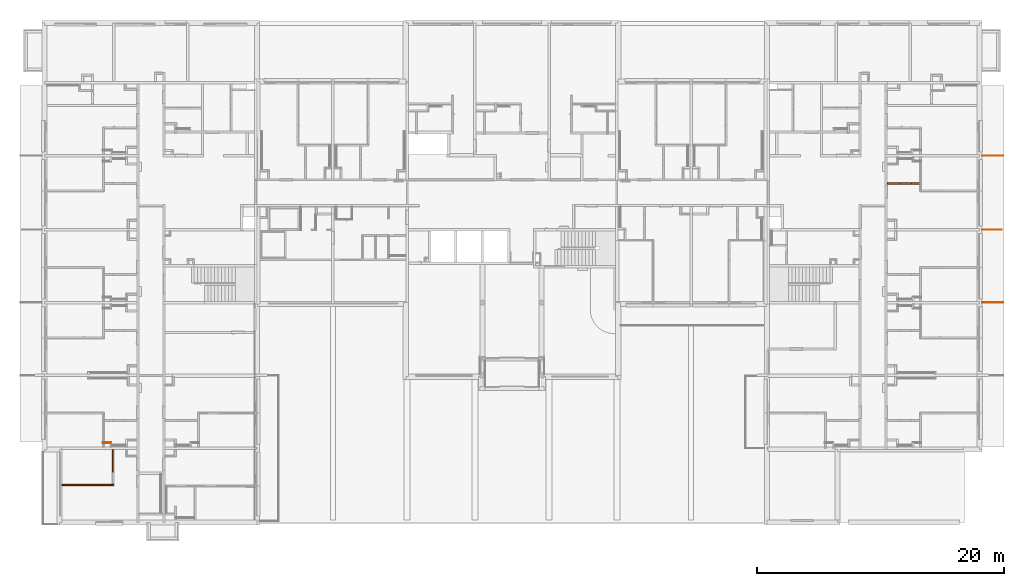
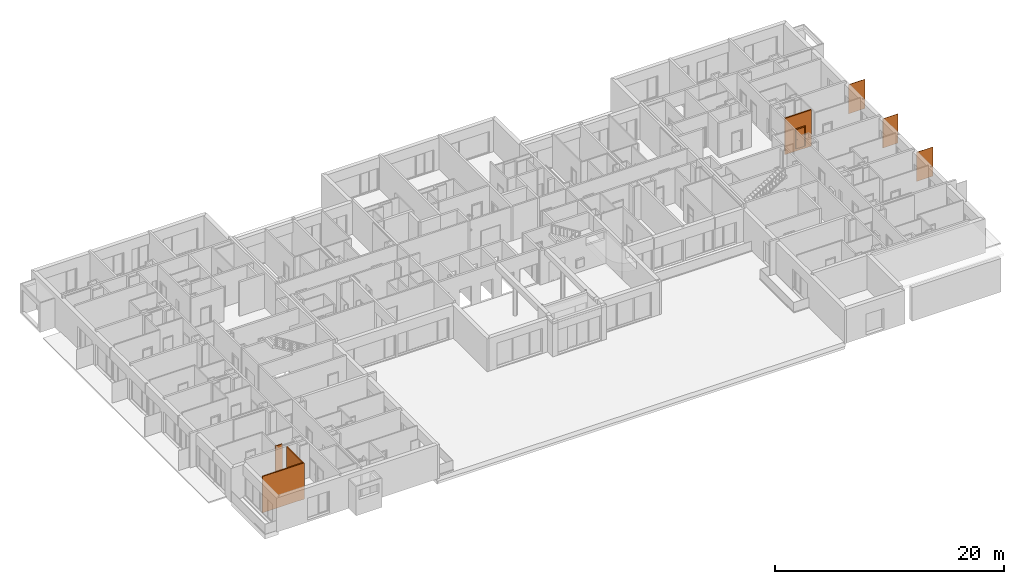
# One storey, part 18 of 46: 8 proxies, 2 openings.
"""IFC2X3 building model written with IfcOpenShell, lengths in millimetres."""

import ifcopenshell
import ifcopenshell.guid

model = None  # the IFC model being written
_history = None  # IfcOwnerHistory: only IFC2X3 demands one
_inside = {}  # id of a spatial element -> (the spatial element, [elements in it])
_under = {}  # id of a project, library or spatial element -> (it, [spatial elements below it])
_declared = {}  # id of a project -> (the project, [libraries it declares])
_typed = {}  # id of a type object -> (the type object, [elements of that type])
_made_of = {}  # id of a material, layer set ... -> (it, [elements and type objects made of it])


def new_model(schema):
    """Start an empty IFC model of exactly this schema.

    Asked for "IFC4X3", IfcOpenShell would pick the latest addendum, in which some entities
    have other attributes; the version numbers below select the first issue.
    IFC2X3 requires an IfcOwnerHistory on every rooted entity: one is made here for all.
    """
    global model, _history
    if schema == "IFC4X3":
        model = ifcopenshell.file(schema_version=(4, 3, 0, 0))
    else:
        model = ifcopenshell.file(schema=schema)
    _inside.clear()
    _under.clear()
    _declared.clear()
    _typed.clear()
    _made_of.clear()
    _history = None
    if model.schema == "IFC2X3":
        org = make("IfcOrganization", Name="unknown")
        user = make(
            "IfcPersonAndOrganization",
            ThePerson=make("IfcPerson", FamilyName="unknown"),
            TheOrganization=org,
        )
        app = make(
            "IfcApplication",
            ApplicationDeveloper=org,
            Version="unknown",
            ApplicationFullName="unknown",
            ApplicationIdentifier="unknown",
        )
        _history = make(
            "IfcOwnerHistory",
            OwningUser=user,
            OwningApplication=app,
            ChangeAction="ADDED",
            CreationDate=0,
        )
    return model


def make(cls, **values):
    """One entity of the class cls with the attributes given. An attribute that is None is left unset."""
    return model.create_entity(
        cls, **{name: value for name, value in values.items() if value is not None}
    )


def entity(cls, *values):
    """Any entity or typed value of the class cls, its attributes in the order of the schema. None: left unset."""
    e = model.create_entity(cls)
    for i, value in enumerate(values):
        if value is not None:
            e[i] = value
    return e


def rooted(cls, **values):
    """An entity with a GlobalId (a new one), such as an element, a storey or a relation."""
    return make(cls, GlobalId=ifcopenshell.guid.new(), OwnerHistory=_history, **values)


def si_unit(unit_type, name, prefix=None):
    """IfcSIUnit, for example si_unit("LENGTHUNIT", "METRE", prefix="MILLI")."""
    return make("IfcSIUnit", UnitType=unit_type, Prefix=prefix, Name=name)


def converted_unit(unit_type, name, factor, base, dimensions=None, offset=None):
    """IfcConversionBasedUnit, such as the inch: factor (a typed value) times the base unit."""
    return make(
        "IfcConversionBasedUnit"
        if offset is None
        else "IfcConversionBasedUnitWithOffset",
        ConversionOffset=offset,
        Dimensions=None
        if dimensions is None
        else entity("IfcDimensionalExponents", *dimensions),
        UnitType=unit_type,
        Name=name,
        ConversionFactor=make(
            "IfcMeasureWithUnit", ValueComponent=factor, UnitComponent=base
        ),
    )


def derived_unit(unit_type, elements):
    """IfcDerivedUnit: a product of units, each with its exponent."""
    return make(
        "IfcDerivedUnit",
        Elements=[
            make("IfcDerivedUnitElement", Unit=unit, Exponent=power)
            for unit, power in elements
        ],
        UnitType=unit_type,
    )


def money_unit(currency):
    """IfcMonetaryUnit."""
    return make("IfcMonetaryUnit", Currency=currency)


def assignment(units):
    """IfcUnitAssignment: the units of a project."""
    return None if units is None else make("IfcUnitAssignment", Units=units)


def point(xyz):
    """IfcCartesianPoint."""
    return None if xyz is None else make("IfcCartesianPoint", Coordinates=xyz)


def direction(xyz):
    """IfcDirection."""
    return None if xyz is None else make("IfcDirection", DirectionRatios=xyz)


def frame(location, z_axis=None, x_axis=None):
    """IfcAxis2Placement3D, a coordinate frame: its origin and axes. An axis left out is left unset."""
    return make(
        "IfcAxis2Placement3D",
        Location=point(location),
        Axis=direction(z_axis),
        RefDirection=direction(x_axis),
    )


def frame_2d(location, x_axis=None):
    """IfcAxis2Placement2D, a coordinate frame in the plane: its origin and x axis."""
    return make(
        "IfcAxis2Placement2D", Location=point(location), RefDirection=direction(x_axis)
    )


def origin_with_axes():
    """The frame at (0, 0, 0) with the z axis (0, 0, 1) and the x axis (1, 0, 0) written out."""
    return frame((0.0, 0.0, 0.0), z_axis=(0.0, 0.0, 1.0), x_axis=(1.0, 0.0, 0.0))


def origin_2d_with_axis():
    """The frame at (0, 0) in the plane with the x axis (1, 0) written out."""
    return frame_2d((0.0, 0.0), x_axis=(1.0, 0.0))


def place(relative_to, where):
    """IfcLocalPlacement: puts the frame where relative to a parent placement (None: the world)."""
    return make(
        "IfcLocalPlacement", PlacementRelTo=relative_to, RelativePlacement=where
    )


def context(
    kind, dimensions, precision=None, world=None, true_north=None, identifier=None
):
    """IfcGeometricRepresentationContext, for example the 3D "Model" context."""
    return make(
        "IfcGeometricRepresentationContext",
        ContextIdentifier=identifier,
        ContextType=kind,
        CoordinateSpaceDimension=dimensions,
        Precision=precision,
        WorldCoordinateSystem=world,
        TrueNorth=true_north,
    )


def subcontext(parent, identifier, kind, view, scale=None):
    """IfcGeometricRepresentationSubContext, for example "Body" below "Model"."""
    return make(
        "IfcGeometricRepresentationSubContext",
        ContextIdentifier=identifier,
        ContextType=kind,
        ParentContext=parent,
        TargetScale=scale,
        TargetView=view,
    )


def project(units=None, contexts=None):
    """IfcProject with its units and contexts."""
    return rooted(
        "IfcProject",
        Name="project",
        RepresentationContexts=contexts,
        UnitsInContext=assignment(units),
    )


def spatial(cls, under=None, at=None, **own):
    """A site, building, storey or space (cls), placed at a placement, below another one or the project."""
    s = rooted(cls, ObjectPlacement=at, **own)
    if under is not None:
        _under.setdefault(under.id(), (under, []))[1].append(s)
    return s


def polyline(points):
    """IfcPolyline through the points."""
    return make("IfcPolyline", Points=[point(p) for p in points])


def profile(cls, at=None, kind="AREA", **sizes):
    """A parametric profile (cls). Its sizes go by their IFC names, for example OverallWidth=200.0."""
    return make(cls, ProfileType=kind, Position=at, **sizes)


def rectangle(**sizes):
    """IfcRectangleProfileDef."""
    return profile("IfcRectangleProfileDef", **sizes)


def outline(outer, holes=None, kind="AREA"):
    """IfcArbitraryClosedProfileDef: a profile drawn as a closed curve; with holes, ...WithVoids."""
    if holes is None:
        return make("IfcArbitraryClosedProfileDef", ProfileType=kind, OuterCurve=outer)
    return make(
        "IfcArbitraryProfileDefWithVoids",
        ProfileType=kind,
        OuterCurve=outer,
        InnerCurves=holes,
    )


def extrude(swept, where, along, depth):
    """IfcExtrudedAreaSolid: the profile swept, set in the frame where, extruded along a direction by depth."""
    return make(
        "IfcExtrudedAreaSolid",
        SweptArea=swept,
        Position=where,
        ExtrudedDirection=direction(along),
        Depth=depth,
    )


def faces_of(points, faces, orient=None, outer=None):
    """IfcFace entities. A face is a list of loops; a loop is a list of indices into points, from 0.

    orient and outer hold one flag for each loop. By default every Orientation is true, the
    first loop of a face is its IfcFaceOuterBound and the others are IfcFaceBound.
    """
    made = []
    for i, loops in enumerate(faces):
        bounds = []
        for j, loop in enumerate(loops):
            is_outer = j == 0 if outer is None else outer[i][j]
            bounds.append(
                make(
                    "IfcFaceOuterBound" if is_outer else "IfcFaceBound",
                    Bound=make("IfcPolyLoop", Polygon=[points[k] for k in loop]),
                    Orientation=True if orient is None else orient[i][j],
                )
            )
        made.append(make("IfcFace", Bounds=bounds))
    return made


def open_shell(faces, orient=None, outer=None):
    """The faces of one IfcOpenShell. surface_model builds it on its shared points."""
    return ("IfcOpenShell", faces, orient, outer)


def faceted_brep(points, faces, orient=None, outer=None, voids=None):
    """IfcFacetedBrep: a solid bounded by flat faces; with voids (closed shells), ...WithVoids."""
    shared = [point(p) for p in points]
    hull = make("IfcClosedShell", CfsFaces=faces_of(shared, faces, orient, outer))
    if voids is None:
        return make("IfcFacetedBrep", Outer=hull)
    return make(
        "IfcFacetedBrepWithVoids",
        Outer=hull,
        Voids=[
            make(cls, CfsFaces=faces_of(shared, fs, o, b)) for cls, fs, o, b in voids
        ],
    )


def surface_model(cls, points, shells):
    """IfcFaceBasedSurfaceModel or IfcShellBasedSurfaceModel (cls): surfaces that need not close."""
    shared = [point(p) for p in points]
    made = [make(c, CfsFaces=faces_of(shared, fs, o, b)) for c, fs, o, b in shells]
    if cls == "IfcFaceBasedSurfaceModel":
        return make(cls, FbsmFaces=made)
    return make(cls, SbsmBoundary=made)


def shape(context_of_items, identifier, shape_type, items):
    """IfcShapeRepresentation: the items that make up one representation, for example the "Body"."""
    return make(
        "IfcShapeRepresentation",
        ContextOfItems=context_of_items,
        RepresentationIdentifier=identifier,
        RepresentationType=shape_type,
        Items=items,
    )


def source(mapping_origin, context_of_items, identifier, shape_type, items):
    """IfcRepresentationMap: a shape defined once, which mapped items show again and again."""
    return make(
        "IfcRepresentationMap",
        MappingOrigin=mapping_origin,
        MappedRepresentation=shape(context_of_items, identifier, shape_type, items),
    )


def transform(
    local_origin,
    x_axis=None,
    y_axis=None,
    z_axis=None,
    scale=None,
    scale2=None,
    scale3=None,
    uniform=True,
):
    """IfcCartesianTransformationOperator3D, or its non-uniform kind. x_axis, y_axis, z_axis: its Axis1, 2, 3."""
    if uniform:
        return make(
            "IfcCartesianTransformationOperator3D",
            Axis1=direction(x_axis),
            Axis2=direction(y_axis),
            LocalOrigin=point(local_origin),
            Scale=scale,
            Axis3=direction(z_axis),
        )
    return make(
        "IfcCartesianTransformationOperator3DnonUniform",
        Axis1=direction(x_axis),
        Axis2=direction(y_axis),
        LocalOrigin=point(local_origin),
        Scale=scale,
        Axis3=direction(z_axis),
        Scale2=scale2,
        Scale3=scale3,
    )


def mapped(mapping_source, mapping_target):
    """IfcMappedItem: shows the shape of a source again, moved by a transform."""
    return make(
        "IfcMappedItem", MappingSource=mapping_source, MappingTarget=mapping_target
    )


def material(Name=None, Category=None):
    """IfcMaterial."""
    return make("IfcMaterial", Name=Name, Category=Category)


def made_of(thing, what):
    """Note that an element or type object is made of a material, layer set ...; save() writes the relation."""
    if what is not None:
        _made_of.setdefault(what.id(), (what, []))[1].append(thing)
    return thing


def type_object(cls, material=None, **own):
    """A type object (cls), such as IfcWallType, which elements share."""
    return made_of(rooted(cls, **own), material)


def element(
    cls,
    number,
    at=None,
    inside=None,
    cuts=None,
    type_object=None,
    material=None,
    context=None,
    identifier="Body",
    shape_type=None,
    held_by="IfcProductDefinitionShape",
    body=None,
    shapes=None,
    **own,
):
    """One element of the class cls, such as IfcWall. Its Tag is "e" and its number.

    at: its placement. inside: the storey or other place that contains it. cuts: it is an
    opening in that element (IfcRelVoidsElement). A single representation is given by context,
    identifier, shape_type and body (its items); several are given by shapes. held_by: the class
    of the entity that holds the representations. save() writes the other relations.
    """
    e = rooted(cls, Tag="e%d" % number, ObjectPlacement=at, **own)
    if body is not None:
        shapes = [shape(context, identifier, shape_type, body)]
    if shapes is not None:
        e.Representation = make(held_by, Representations=shapes)
    if inside is not None:
        _inside.setdefault(inside.id(), (inside, []))[1].append(e)
    if cuts is not None:
        rooted(
            "IfcRelVoidsElement", RelatingBuildingElement=cuts, RelatedOpeningElement=e
        )
    if type_object is not None:
        _typed.setdefault(type_object.id(), (type_object, []))[1].append(e)
    return made_of(e, material)


def fill(opening, filler):
    """IfcRelFillsElement: the door or window that sits in an opening."""
    return rooted(
        "IfcRelFillsElement",
        RelatingOpeningElement=opening,
        RelatedBuildingElement=filler,
    )


def aggregate(whole, parts):
    """IfcRelAggregates: a whole, such as a stair, and the parts it consists of."""
    return rooted("IfcRelAggregates", RelatingObject=whole, RelatedObjects=parts)


def save(model, path):
    """Write the relations noted so far, then the file.

    IfcRelAggregates (storeys below a building ...), IfcRelContainedInSpatialStructure (elements
    in a storey), IfcRelDefinesByType, IfcRelAssociatesMaterial and IfcRelDeclares: one each for
    every whole, place, type object, material and project.
    """
    for whole, parts in _under.values():
        aggregate(whole, parts)
    for where, things in _inside.values():
        rooted(
            "IfcRelContainedInSpatialStructure",
            RelatedElements=things,
            RelatingStructure=where,
        )
    for kind, things in _typed.values():
        rooted("IfcRelDefinesByType", RelatedObjects=things, RelatingType=kind)
    for what, things in _made_of.values():
        rooted("IfcRelAssociatesMaterial", RelatedObjects=things, RelatingMaterial=what)
    for by, libraries in _declared.values():
        rooted("IfcRelDeclares", RelatingContext=by, RelatedDefinitions=libraries)
    model.write(path)


model = new_model("IFC2X3")

# Units and contexts
model_context = context("Model", 3, precision=0.01, world=origin_with_axes(), true_north=direction((0.34421633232, 0.938890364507)))
body_context = subcontext(model_context, "Body", "Model", "MODEL_VIEW")
ifc_project = project(units=[si_unit("LENGTHUNIT", "METRE", prefix="MILLI"), si_unit("AREAUNIT", "SQUARE_METRE"), si_unit("VOLUMEUNIT", "CUBIC_METRE"), converted_unit("PLANEANGLEUNIT", "DEGREE", entity("IfcPlaneAngleMeasure", 0.0174532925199), si_unit("PLANEANGLEUNIT", "RADIAN"), dimensions=[0, 0, 0, 0, 0, 0, 0]), si_unit("SOLIDANGLEUNIT", "STERADIAN"), money_unit("USD"), converted_unit("TIMEUNIT", "Year", entity("IfcTimeMeasure", 31556926.0), si_unit("TIMEUNIT", "SECOND"), dimensions=[0, 0, 1, 0, 0, 0, 0]), si_unit("MASSUNIT", "GRAM", prefix="KILO"), si_unit("THERMODYNAMICTEMPERATUREUNIT", "DEGREE_CELSIUS"), si_unit("LUMINOUSINTENSITYUNIT", "LUMEN"), si_unit("ENERGYUNIT", "JOULE", prefix="MEGA"), derived_unit("THERMALCONDUCTANCEUNIT", [(si_unit("POWERUNIT", "WATT"), 1), (si_unit("LENGTHUNIT", "METRE"), -1), (si_unit("THERMODYNAMICTEMPERATUREUNIT", "KELVIN"), -1)]), derived_unit("SPECIFICHEATCAPACITYUNIT", [(si_unit("ENERGYUNIT", "JOULE"), 1), (si_unit("MASSUNIT", "GRAM", prefix="KILO"), -1), (si_unit("THERMODYNAMICTEMPERATUREUNIT", "KELVIN"), -1)]), derived_unit("MASSDENSITYUNIT", [(si_unit("MASSUNIT", "GRAM", prefix="KILO"), 1), (si_unit("VOLUMEUNIT", "CUBIC_METRE"), -1)])], contexts=[model_context])

# Site, building, storey
site_placement = place(None, origin_with_axes())
site = spatial("IfcSite", under=ifc_project, at=site_placement, Name="USTRONIE MORSKIE", CompositionType="ELEMENT")
building_placement = place(site_placement, origin_with_axes())
building = spatial("IfcBuilding", under=site, at=building_placement, Name="Budynek", CompositionType="ELEMENT")
storey_placement = place(building_placement, origin_with_axes())
storey = spatial("IfcBuildingStorey", under=building, at=storey_placement, Name="PARTER", CompositionType="ELEMENT", Elevation=0.0)

# Proxies, opening
ifc_material_1 = material(Name="Bloczki silikatowe")
building_element_proxy_type_1 = type_object("IfcBuildingElementProxyType", Name="Bloczki silikatowe 120", PredefinedType="NOTDEFINED")
proxy_1_placement = place(storey_placement, frame((420917.920919, 736541.179047, -230.0), z_axis=(0.0, 0.0, 1.0), x_axis=(-1.0, 0.0, 0.0)))
proxy_1 = element("IfcBuildingElementProxy", 1, at=proxy_1_placement, inside=storey, type_object=building_element_proxy_type_1, material=ifc_material_1, Name="SW-04", context=body_context, shape_type="Brep", body=[
    faceted_brep([(2720.0, 59.9999999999, 0.0), (2720.0, -59.9999999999, 0.0), (60.0, -59.9999999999, 0.0), (60.0, 59.9999999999, 0.0), (2720.0, 59.9999999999, 3870.0), (2720.0, -59.9999999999, 3870.0), (60.0, -59.9999999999, 3870.0), (60.0, 59.9999999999, 3870.0)], [[[0, 1, 2, 3]], [[1, 0, 4, 5]], [[1, 5, 6, 2]], [[7, 3, 2, 6]], [[4, 0, 3, 7]], [[5, 4, 7, 6]]]),
])
opening_1_placement = place(proxy_1_placement, frame((1200.0, 0.0, 230.0), z_axis=(0.0, 0.0, 1.0), x_axis=(1.0, 0.0, 0.0)))
opening_1 = element("IfcOpeningElement", 2, at=opening_1_placement, cuts=proxy_1, Name="Dw.4", context=body_context, shape_type="SweptSolid", body=[
    extrude(rectangle(XDim=920.0, YDim=2070.0, at=origin_2d_with_axis()), frame((0.0, -120.0, 1035.0), z_axis=(0.0, -1.0, 0.0), x_axis=(-1.0, 0.0, 0.0)), (0.0, 0.0, -1.0), 360.0),
    extrude(rectangle(XDim=994.0, YDim=2177.0, at=origin_2d_with_axis()), frame((0.0, -59.9999999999, 1088.5), z_axis=(0.0, -1.0, 0.0), x_axis=(-1.0, 0.0, 0.0)), (0.0, 0.0, 1.0), 120.0),
    extrude(rectangle(XDim=994.0, YDim=2177.0, at=origin_2d_with_axis()), frame((0.0, 60.0000000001, 1088.5), z_axis=(0.0, 1.0, 0.0), x_axis=(-1.0, 0.0, 0.0)), (0.0, 0.0, 1.0), 120.0),
])
building_element_proxy_type_2 = type_object("IfcBuildingElementProxyType", Name="Drzwi 23", PredefinedType="NOTDEFINED")
shared_shape = source(origin_with_axes(), body_context, "Body", "SurfaceModel", [
    faceted_brep([(460.0, -115.0, 0.0), (460.0, -120.0, 0.0), (435.0, -120.0, 0.0), (435.0, -115.0, 0.0), (460.0, -115.0, 2070.0), (460.0, -120.0, 2070.0), (435.0, -120.0, 2045.0), (435.0, -115.0, 2045.0)], [[[0, 1, 2, 3]], [[4, 5, 1, 0]], [[1, 5, 6, 2]], [[3, 2, 6, 7]], [[0, 3, 7, 4]], [[7, 6, 5, 4]]]),
    faceted_brep([(-460.0, -115.0, 2070.0), (-460.0, -120.0, 2070.0), (-435.0, -120.0, 2045.0), (-435.0, -115.0, 2045.0), (-460.0, -115.0, 0.0), (-460.0, -120.0, 0.0), (-435.0, -120.0, 0.0), (-435.0, -115.0, 0.0)], [[[0, 1, 2, 3]], [[4, 5, 1, 0]], [[1, 5, 6, 2]], [[3, 2, 6, 7]], [[0, 3, 7, 4]], [[7, 6, 5, 4]]]),
    faceted_brep([(435.0, -115.0, 2045.0), (435.0, -120.0, 2045.0), (-435.0, -120.0, 2045.0), (-435.0, -115.0, 2045.0), (460.0, -115.0, 2070.0), (460.0, -120.0, 2070.0), (-460.0, -120.0, 2070.0), (-460.0, -115.0, 2070.0)], [[[0, 1, 2, 3]], [[4, 5, 1, 0]], [[1, 5, 6, 2]], [[3, 2, 6, 7]], [[0, 3, 7, 4]], [[7, 6, 5, 4]]]),
    faceted_brep([(497.0, -139.0, 0.0), (447.0, -139.0, 0.0), (447.0, -120.0, 0.0), (497.0, -120.0, 0.0), (497.0, -139.0, 2177.0), (447.0, -139.0, 2057.0), (447.0, -120.0, 2057.0), (497.0, -120.0, 2177.0)], [[[0, 1, 2, 3]], [[0, 4, 5, 1]], [[1, 5, 6, 2]], [[3, 2, 6, 7]], [[4, 0, 3, 7]], [[5, 4, 7, 6]]]),
    faceted_brep([(-497.0, -139.0, 2177.0), (-447.0, -139.0, 2057.0), (-447.0, -120.0, 2057.0), (-497.0, -120.0, 2177.0), (-497.0, -139.0, 0.0), (-447.0, -139.0, 0.0), (-447.0, -120.0, 0.0), (-497.0, -120.0, 0.0)], [[[0, 1, 2, 3]], [[0, 4, 5, 1]], [[1, 5, 6, 2]], [[3, 2, 6, 7]], [[4, 0, 3, 7]], [[5, 4, 7, 6]]]),
    faceted_brep([(497.0, -139.0, 2177.0), (447.0, -139.0, 2057.0), (447.0, -120.0, 2057.0), (497.0, -120.0, 2177.0), (-497.0, -139.0, 2177.0), (-447.0, -139.0, 2057.0), (-447.0, -120.0, 2057.0), (-497.0, -120.0, 2177.0)], [[[0, 1, 2, 3]], [[0, 4, 5, 1]], [[1, 5, 6, 2]], [[3, 2, 6, 7]], [[4, 0, 3, 7]], [[5, 4, 7, 6]]]),
    faceted_brep([(497.0, 19.0, 0.0), (497.0, 0.0, 0.0), (447.0, 0.0, 0.0), (447.0, 19.0, 0.0), (497.0, 19.0, 2177.0), (497.0, 0.0, 2177.0), (447.0, 0.0, 2057.0), (447.0, 19.0, 2057.0)], [[[0, 1, 2, 3]], [[4, 5, 1, 0]], [[1, 5, 6, 2]], [[3, 2, 6, 7]], [[0, 3, 7, 4]], [[7, 6, 5, 4]]]),
    faceted_brep([(-497.0, 19.0, 2177.0), (-497.0, 0.0, 2177.0), (-447.0, 0.0, 2057.0), (-447.0, 19.0, 2057.0), (-497.0, 19.0, 0.0), (-497.0, 0.0, 0.0), (-447.0, 0.0, 0.0), (-447.0, 19.0, 0.0)], [[[0, 1, 2, 3]], [[4, 5, 1, 0]], [[1, 5, 6, 2]], [[3, 2, 6, 7]], [[0, 3, 7, 4]], [[7, 6, 5, 4]]]),
    faceted_brep([(497.0, 19.0, 2177.0), (497.0, 0.0, 2177.0), (447.0, 0.0, 2057.0), (447.0, 19.0, 2057.0), (-497.0, 19.0, 2177.0), (-497.0, 0.0, 2177.0), (-447.0, 0.0, 2057.0), (-447.0, 19.0, 2057.0)], [[[0, 1, 2, 3]], [[4, 5, 1, 0]], [[1, 5, 6, 2]], [[3, 2, 6, 7]], [[0, 3, 7, 4]], [[7, 6, 5, 4]]]),
    faceted_brep([(400.0, -40.0, 0.0), (400.0, -115.0, 0.0), (400.0, -115.0, 2000.0), (400.0, -40.0, 2000.0), (412.0, -40.0, 0.0), (412.0, 0.0, 0.0), (460.0, 0.0, 0.0), (460.0, -115.0, 0.0), (460.0, -115.0, 2000.0), (412.0, -40.0, 2000.0), (460.0, 0.0, 2000.0), (412.0, 0.0, 2000.0)], [[[0, 1, 2, 3]], [[4, 5, 6, 7, 1, 0]], [[1, 7, 8, 2]], [[9, 3, 2, 8, 10, 11]], [[9, 4, 0, 3]], [[11, 5, 4, 9]], [[11, 10, 6, 5]], [[6, 10, 8, 7]]]),
    faceted_brep([(-412.0, -40.0, 2000.0), (-412.0, 0.0, 2000.0), (-460.0, 0.0, 2000.0), (-460.0, -115.0, 2000.0), (-400.0, -115.0, 2000.0), (-400.0, -40.0, 2000.0), (-412.0, -40.0, 0.0), (-412.0, 0.0, 0.0), (-460.0, 0.0, 0.0), (-460.0, -115.0, 0.0), (-400.0, -115.0, 0.0), (-400.0, -40.0, 0.0)], [[[0, 1, 2, 3, 4, 5]], [[0, 6, 7, 1]], [[7, 8, 2, 1]], [[2, 8, 9, 3]], [[3, 9, 10, 4]], [[5, 4, 10, 11]], [[5, 11, 6, 0]], [[6, 11, 10, 9, 8, 7]]]),
    faceted_brep([(412.0, 0.0, 2012.0), (-412.0, 0.0, 2012.0), (-412.0, 0.0, 2000.0), (-460.0, 0.0, 2000.0), (-460.0, 0.0, 2070.0), (460.0, 0.0, 2070.0), (460.0, 0.0, 2000.0), (412.0, 0.0, 2000.0), (412.0, -40.0, 2012.0), (-412.0, -40.0, 2012.0), (-412.0, -40.0, 2000.0), (-400.0, -40.0, 2000.0), (-400.0, -115.0, 2000.0), (-460.0, -115.0, 2000.0), (-460.0, -115.0, 2070.0), (460.0, -115.0, 2070.0), (460.0, -115.0, 2000.0), (412.0, -40.0, 2000.0), (400.0, -115.0, 2000.0), (400.0, -40.0, 2000.0)], [[[0, 1, 2, 3, 4, 5, 6, 7]], [[0, 8, 9, 1]], [[1, 9, 10, 2]], [[10, 11, 12, 13, 3, 2]], [[4, 3, 13, 14]], [[5, 4, 14, 15]], [[6, 5, 15, 16]], [[17, 7, 6, 16, 18, 19]], [[7, 17, 8, 0]], [[10, 9, 8, 17, 19, 11]], [[19, 18, 12, 11]], [[12, 18, 16, 15, 14, 13]]]),
    faceted_brep([(390.5, -40.0, 1060.0), (333.5, -40.0, 1060.0), (333.5, -43.0, 1060.0), (390.5, -43.0, 1060.0), (390.5, -40.0, 870.0), (333.5, -40.0, 870.0), (333.5, -43.0, 870.0), (390.5, -43.0, 870.0)], [[[0, 1, 2, 3]], [[0, 4, 5, 1]], [[1, 5, 6, 2]], [[3, 2, 6, 7]], [[4, 0, 3, 7]], [[5, 4, 7, 6]]]),
    faceted_brep([(362.0, -104.0, 990.0), (367.0, -104.0, 991.339745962), (367.0, -111.0, 991.339745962), (362.0, -111.0, 990.0), (337.0, -104.0, 990.0), (337.0, -104.0, 1010.0), (362.0, -104.0, 1010.0), (367.0, -104.0, 1008.66025404), (370.660254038, -104.0, 1005.0), (372.0, -104.0, 1000.0), (370.660254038, -104.0, 995.0), (370.660254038, -111.0, 995.0), (372.0, -111.0, 1000.0), (370.660254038, -111.0, 1005.0), (367.0, -111.0, 1008.66025404), (362.0, -111.0, 1010.0), (337.0, -111.0, 1010.0), (337.0, -111.0, 990.0)], [[[0, 1, 2, 3]], [[0, 4, 5, 6, 7, 8, 9, 10, 1]], [[1, 10, 11, 2]], [[3, 2, 11, 12, 13, 14, 15, 16, 17]], [[4, 0, 3, 17]], [[5, 4, 17, 16]], [[6, 5, 16, 15]], [[7, 6, 15, 14]], [[8, 7, 14, 13]], [[9, 8, 13, 12]], [[10, 9, 12, 11]]]),
    surface_model("IfcShellBasedSurfaceModel", [(337.0, -104.0, 1010.0), (323.901717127, -104.0, 1009.60730092), (323.596090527, -111.0, 1009.60730092), (337.0, -104.0, 990.0), (323.901717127, -104.0, 990.392699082), (296.890283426, -108.663544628, 1008.82190275), (337.0, -111.0, 1010.0), (337.0, -111.0, 990.0), (297.804837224, -101.716818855, 991.178097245), (297.804837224, -101.716818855, 1008.82190275), (296.890283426, -108.663544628, 991.178097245), (323.596090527, -111.0, 990.392699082), (272.006256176, -97.1678329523, 991.963495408), (272.006256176, -97.1678329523, 1008.03650459), (270.489735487, -104.008415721, 1008.03650459), (270.489735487, -104.008415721, 991.963495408), (246.702316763, -90.3876628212, 992.748893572), (246.702316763, -90.3876628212, 1007.25110643), (244.59537082, -97.0700416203, 1007.25110643), (244.59537082, -97.0700416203, 992.748893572), (238.829442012, -87.5221707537, 993.0), (238.829442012, -87.5221707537, 1007.0), (236.538795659, -94.1376880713, 1007.0), (236.538795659, -94.1376880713, 993.0)], [open_shell([[[0, 1, 2]], [[0, 3, 4, 1]], [[1, 5, 2]], [[0, 2, 6]], [[4, 3, 7]], [[1, 4, 8, 9]], [[1, 9, 5]], [[2, 5, 10, 11]], [[6, 2, 11, 7]], [[4, 7, 11]], [[8, 4, 11]], [[9, 8, 12, 13]], [[9, 14, 5]], [[5, 14, 15, 10]], [[8, 11, 10]], [[12, 8, 10]], [[13, 12, 16, 17]], [[9, 13, 14]], [[14, 18, 19, 15]], [[12, 10, 15]], [[16, 12, 15]], [[17, 16, 20, 21]], [[13, 17, 18]], [[13, 18, 14]], [[18, 22, 23, 19]], [[16, 15, 19]], [[20, 16, 19]], [[21, 20, 23, 22]], [[17, 21, 22]], [[17, 22, 18]], [[20, 19, 23]]])]),
    faceted_brep([(351.607695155, -53.0, 994.0), (350.0, -53.0, 1000.0), (349.0, -43.0, 1000.0), (350.741669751, -43.0, 993.5), (356.0, -53.0, 989.607695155), (362.0, -53.0, 988.0), (368.0, -53.0, 989.607695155), (372.392304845, -53.0, 994.0), (374.0, -53.0, 1000.0), (372.392304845, -53.0, 1006.0), (368.0, -53.0, 1010.39230485), (362.0, -53.0, 1012.0), (356.0, -53.0, 1010.39230485), (351.607695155, -53.0, 1006.0), (350.741669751, -43.0, 1006.5), (355.5, -43.0, 1011.25833025), (362.0, -43.0, 1013.0), (368.5, -43.0, 1011.25833025), (373.258330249, -43.0, 1006.5), (375.0, -43.0, 1000.0), (373.258330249, -43.0, 993.5), (368.5, -43.0, 988.741669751), (362.0, -43.0, 987.0), (355.5, -43.0, 988.741669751)], [[[0, 1, 2, 3]], [[1, 0, 4, 5, 6, 7, 8, 9, 10, 11, 12, 13]], [[1, 13, 14, 2]], [[2, 14, 15, 16, 17, 18, 19, 20, 21, 22, 23, 3]], [[4, 0, 3, 23]], [[5, 4, 23, 22]], [[6, 5, 22, 21]], [[7, 6, 21, 20]], [[8, 7, 20, 19]], [[9, 8, 19, 18]], [[10, 9, 18, 17]], [[11, 10, 17, 16]], [[12, 11, 16, 15]], [[13, 12, 15, 14]]]),
    faceted_brep([(344.679491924, -47.0, 895.0), (342.0, -47.0, 905.0), (340.0, -43.0, 905.0), (342.947441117, -43.0, 894.0), (352.0, -47.0, 887.679491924), (362.0, -47.0, 885.0), (372.0, -47.0, 887.679491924), (379.320508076, -47.0, 895.0), (382.0, -47.0, 905.0), (379.320508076, -47.0, 915.0), (372.0, -47.0, 922.320508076), (362.0, -47.0, 925.0), (352.0, -47.0, 922.320508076), (344.679491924, -47.0, 915.0), (342.947441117, -43.0, 916.0), (351.0, -43.0, 924.052558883), (362.0, -43.0, 927.0), (373.0, -43.0, 924.052558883), (381.052558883, -43.0, 916.0), (384.0, -43.0, 905.0), (381.052558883, -43.0, 894.0), (373.0, -43.0, 885.947441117), (362.0, -43.0, 883.0), (351.0, -43.0, 885.947441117)], [[[0, 1, 2, 3]], [[1, 0, 4, 5, 6, 7, 8, 9, 10, 11, 12, 13]], [[1, 13, 14, 2]], [[2, 14, 15, 16, 17, 18, 19, 20, 21, 22, 23, 3]], [[4, 0, 3, 23]], [[5, 4, 23, 22]], [[6, 5, 22, 21]], [[7, 6, 21, 20]], [[8, 7, 20, 19]], [[9, 8, 19, 18]], [[10, 9, 18, 17]], [[11, 10, 17, 16]], [[12, 11, 16, 15]], [[13, 12, 15, 14]]]),
    faceted_brep([(357.050252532, -49.0, 909.050252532), (355.0, -49.0, 914.0), (354.0, -47.0, 914.0), (356.343145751, -47.0, 908.343145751), (362.0, -49.0, 907.0), (366.949747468, -49.0, 909.050252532), (369.0, -49.0, 914.0), (366.949747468, -49.0, 918.949747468), (362.0, -49.0, 921.0), (357.050252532, -49.0, 918.949747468), (356.343145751, -47.0, 919.656854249), (362.0, -47.0, 922.0), (367.656854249, -47.0, 919.656854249), (370.0, -47.0, 914.0), (367.656854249, -47.0, 908.343145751), (362.0, -47.0, 906.0)], [[[0, 1, 2, 3]], [[1, 0, 4, 5, 6, 7, 8, 9]], [[1, 9, 10, 2]], [[2, 10, 11, 12, 13, 14, 15, 3]], [[4, 0, 3, 15]], [[5, 4, 15, 14]], [[6, 5, 14, 13]], [[7, 6, 13, 12]], [[8, 7, 12, 11]], [[9, 8, 11, 10]]]),
    faceted_brep([(362.0, -53.0, 1010.0), (357.0, -53.0, 1008.66025404), (357.0, -104.0, 1008.66025404), (362.0, -104.0, 1010.0), (367.0, -53.0, 1008.66025404), (370.660254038, -53.0, 1005.0), (372.0, -53.0, 1000.0), (370.660254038, -53.0, 995.0), (367.0, -53.0, 991.339745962), (362.0, -53.0, 990.0), (357.0, -53.0, 991.339745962), (353.339745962, -53.0, 995.0), (352.0, -53.0, 1000.0), (353.339745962, -53.0, 1005.0), (353.339745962, -104.0, 1005.0), (352.0, -104.0, 1000.0), (353.339745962, -104.0, 995.0), (357.0, -104.0, 991.339745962), (362.0, -104.0, 990.0), (367.0, -104.0, 991.339745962), (370.660254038, -104.0, 995.0), (372.0, -104.0, 1000.0), (370.660254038, -104.0, 1005.0), (367.0, -104.0, 1008.66025404)], [[[0, 1, 2, 3]], [[0, 4, 5, 6, 7, 8, 9, 10, 11, 12, 13, 1]], [[1, 13, 14, 2]], [[3, 2, 14, 15, 16, 17, 18, 19, 20, 21, 22, 23]], [[4, 0, 3, 23]], [[5, 4, 23, 22]], [[6, 5, 22, 21]], [[7, 6, 21, 20]], [[8, 7, 20, 19]], [[9, 8, 19, 18]], [[10, 9, 18, 17]], [[11, 10, 17, 16]], [[12, 11, 16, 15]], [[13, 12, 15, 14]]]),
    faceted_brep([(390.5, 0.0, 1060.0), (390.5, 3.0, 1060.0), (333.5, 3.0, 1060.0), (333.5, 0.0, 1060.0), (390.5, 0.0, 870.0), (390.5, 3.0, 870.0), (333.5, 3.0, 870.0), (333.5, 0.0, 870.0)], [[[0, 1, 2, 3]], [[4, 5, 1, 0]], [[1, 5, 6, 2]], [[3, 2, 6, 7]], [[0, 3, 7, 4]], [[7, 6, 5, 4]]]),
    faceted_brep([(362.0, 64.0, 990.0), (362.0, 71.0, 990.0), (367.0, 71.0, 991.339745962), (367.0, 64.0, 991.339745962), (337.0, 64.0, 990.0), (337.0, 71.0, 990.0), (337.0, 71.0, 1010.0), (362.0, 71.0, 1010.0), (367.0, 71.0, 1008.66025404), (370.660254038, 71.0, 1005.0), (372.0, 71.0, 1000.0), (370.660254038, 71.0, 995.0), (370.660254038, 64.0, 995.0), (372.0, 64.0, 1000.0), (370.660254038, 64.0, 1005.0), (367.0, 64.0, 1008.66025404), (362.0, 64.0, 1010.0), (337.0, 64.0, 1010.0)], [[[0, 1, 2, 3]], [[4, 5, 1, 0]], [[1, 5, 6, 7, 8, 9, 10, 11, 2]], [[3, 2, 11, 12]], [[0, 3, 12, 13, 14, 15, 16, 17, 4]], [[17, 6, 5, 4]], [[16, 7, 6, 17]], [[15, 8, 7, 16]], [[14, 9, 8, 15]], [[13, 10, 9, 14]], [[12, 11, 10, 13]]]),
    surface_model("IfcShellBasedSurfaceModel", [(337.0, 64.0, 1010.0), (323.596090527, 71.0, 1009.60730092), (323.901717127, 64.0, 1009.60730092), (337.0, 71.0, 1010.0), (296.890283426, 68.6635446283, 1008.82190275), (323.901717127, 64.0, 990.392699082), (337.0, 64.0, 990.0), (337.0, 71.0, 990.0), (323.596090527, 71.0, 990.392699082), (296.890283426, 68.6635446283, 991.178097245), (297.804837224, 61.716818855, 1008.82190275), (297.804837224, 61.716818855, 991.178097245), (270.489735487, 64.0084157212, 991.963495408), (270.489735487, 64.0084157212, 1008.03650459), (272.006256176, 57.1678329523, 1008.03650459), (272.006256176, 57.1678329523, 991.963495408), (244.59537082, 57.0700416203, 992.748893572), (244.59537082, 57.0700416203, 1007.25110643), (246.702316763, 50.3876628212, 1007.25110643), (246.702316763, 50.3876628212, 992.748893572), (236.538795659, 54.1376880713, 993.0), (236.538795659, 54.1376880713, 1007.0), (238.829442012, 47.5221707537, 1007.0), (238.829442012, 47.5221707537, 993.0)], [open_shell([[[0, 1, 2]], [[0, 3, 1]], [[2, 1, 4]], [[0, 2, 5, 6]], [[3, 7, 8, 1]], [[1, 8, 9, 4]], [[2, 4, 10]], [[2, 10, 11, 5]], [[5, 7, 6]], [[5, 8, 7]], [[11, 9, 8]], [[4, 9, 12, 13]], [[10, 4, 13]], [[10, 14, 15, 11]], [[11, 8, 5]], [[15, 9, 11]], [[15, 12, 9]], [[13, 12, 16, 17]], [[10, 13, 14]], [[14, 18, 19, 15]], [[19, 12, 15]], [[19, 16, 12]], [[17, 16, 20, 21]], [[14, 13, 17]], [[14, 17, 18]], [[18, 22, 23, 19]], [[23, 16, 19]], [[23, 20, 16]], [[22, 21, 20, 23]], [[18, 17, 21]], [[18, 21, 22]]])]),
    faceted_brep([(351.607695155, 13.0, 994.0), (350.741669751, 3.0, 993.5), (349.0, 3.0, 1000.0), (350.0, 13.0, 1000.0), (356.0, 13.0, 989.607695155), (355.5, 3.0, 988.741669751), (362.0, 3.0, 987.0), (368.5, 3.0, 988.741669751), (373.258330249, 3.0, 993.5), (375.0, 3.0, 1000.0), (373.258330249, 3.0, 1006.5), (368.5, 3.0, 1011.25833025), (362.0, 3.0, 1013.0), (355.5, 3.0, 1011.25833025), (350.741669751, 3.0, 1006.5), (351.607695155, 13.0, 1006.0), (356.0, 13.0, 1010.39230485), (362.0, 13.0, 1012.0), (368.0, 13.0, 1010.39230485), (372.392304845, 13.0, 1006.0), (374.0, 13.0, 1000.0), (372.392304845, 13.0, 994.0), (368.0, 13.0, 989.607695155), (362.0, 13.0, 988.0)], [[[0, 1, 2, 3]], [[4, 5, 1, 0]], [[2, 1, 5, 6, 7, 8, 9, 10, 11, 12, 13, 14]], [[3, 2, 14, 15]], [[3, 15, 16, 17, 18, 19, 20, 21, 22, 23, 4, 0]], [[23, 6, 5, 4]], [[22, 7, 6, 23]], [[21, 8, 7, 22]], [[20, 9, 8, 21]], [[19, 10, 9, 20]], [[18, 11, 10, 19]], [[17, 12, 11, 18]], [[16, 13, 12, 17]], [[15, 14, 13, 16]]]),
    faceted_brep([(344.679491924, 7.0, 895.0), (342.947441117, 3.0, 894.0), (340.0, 3.0, 905.0), (342.0, 7.0, 905.0), (352.0, 7.0, 887.679491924), (351.0, 3.0, 885.947441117), (362.0, 3.0, 883.0), (373.0, 3.0, 885.947441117), (381.052558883, 3.0, 894.0), (384.0, 3.0, 905.0), (381.052558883, 3.0, 916.0), (373.0, 3.0, 924.052558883), (362.0, 3.0, 927.0), (351.0, 3.0, 924.052558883), (342.947441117, 3.0, 916.0), (344.679491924, 7.0, 915.0), (352.0, 7.0, 922.320508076), (362.0, 7.0, 925.0), (372.0, 7.0, 922.320508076), (379.320508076, 7.0, 915.0), (382.0, 7.0, 905.0), (379.320508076, 7.0, 895.0), (372.0, 7.0, 887.679491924), (362.0, 7.0, 885.0)], [[[0, 1, 2, 3]], [[4, 5, 1, 0]], [[2, 1, 5, 6, 7, 8, 9, 10, 11, 12, 13, 14]], [[3, 2, 14, 15]], [[3, 15, 16, 17, 18, 19, 20, 21, 22, 23, 4, 0]], [[23, 6, 5, 4]], [[22, 7, 6, 23]], [[21, 8, 7, 22]], [[20, 9, 8, 21]], [[19, 10, 9, 20]], [[18, 11, 10, 19]], [[17, 12, 11, 18]], [[16, 13, 12, 17]], [[15, 14, 13, 16]]]),
    faceted_brep([(357.050252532, 9.0, 909.050252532), (356.343145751, 7.0, 908.343145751), (354.0, 7.0, 914.0), (355.0, 9.0, 914.0), (362.0, 9.0, 907.0), (362.0, 7.0, 906.0), (367.656854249, 7.0, 908.343145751), (370.0, 7.0, 914.0), (367.656854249, 7.0, 919.656854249), (362.0, 7.0, 922.0), (356.343145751, 7.0, 919.656854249), (357.050252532, 9.0, 918.949747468), (362.0, 9.0, 921.0), (366.949747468, 9.0, 918.949747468), (369.0, 9.0, 914.0), (366.949747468, 9.0, 909.050252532)], [[[0, 1, 2, 3]], [[4, 5, 1, 0]], [[2, 1, 5, 6, 7, 8, 9, 10]], [[3, 2, 10, 11]], [[3, 11, 12, 13, 14, 15, 4, 0]], [[15, 6, 5, 4]], [[14, 7, 6, 15]], [[13, 8, 7, 14]], [[12, 9, 8, 13]], [[11, 10, 9, 12]]]),
    faceted_brep([(362.0, 13.0, 1010.0), (362.0, 64.0, 1010.0), (357.0, 64.0, 1008.66025404), (357.0, 13.0, 1008.66025404), (367.0, 13.0, 1008.66025404), (367.0, 64.0, 1008.66025404), (370.660254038, 64.0, 1005.0), (372.0, 64.0, 1000.0), (370.660254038, 64.0, 995.0), (367.0, 64.0, 991.339745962), (362.0, 64.0, 990.0), (357.0, 64.0, 991.339745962), (353.339745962, 64.0, 995.0), (352.0, 64.0, 1000.0), (353.339745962, 64.0, 1005.0), (353.339745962, 13.0, 1005.0), (352.0, 13.0, 1000.0), (353.339745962, 13.0, 995.0), (357.0, 13.0, 991.339745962), (362.0, 13.0, 990.0), (367.0, 13.0, 991.339745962), (370.660254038, 13.0, 995.0), (372.0, 13.0, 1000.0), (370.660254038, 13.0, 1005.0)], [[[0, 1, 2, 3]], [[4, 5, 1, 0]], [[1, 5, 6, 7, 8, 9, 10, 11, 12, 13, 14, 2]], [[3, 2, 14, 15]], [[0, 3, 15, 16, 17, 18, 19, 20, 21, 22, 23, 4]], [[23, 6, 5, 4]], [[22, 7, 6, 23]], [[21, 8, 7, 22]], [[20, 9, 8, 21]], [[19, 10, 9, 20]], [[18, 11, 10, 19]], [[17, 12, 11, 18]], [[16, 13, 12, 17]], [[15, 14, 13, 16]]]),
    faceted_brep([(-412.0, 0.0, 0.0), (412.0, 0.0, 0.0), (412.0, -40.0, 0.0), (-412.0, -40.0, 0.0), (-412.0, 0.0, 2012.0), (412.0, 0.0, 2012.0), (412.0, -40.0, 2012.0), (-412.0, -40.0, 2012.0)], [[[0, 1, 2, 3]], [[0, 4, 5, 1]], [[1, 5, 6, 2]], [[3, 2, 6, 7]], [[4, 0, 3, 7]], [[5, 4, 7, 6]]]),
])
proxy_2_placement = place(opening_1_placement, frame((-400.0, 0.0, 0.0), z_axis=(0.0, 0.0, 1.0), x_axis=(1.0, 0.0, 0.0)))
proxy_2 = element("IfcBuildingElementProxy", 3, at=proxy_2_placement, inside=storey, type_object=building_element_proxy_type_2, Name="Dw.4", context=body_context, shape_type="MappedRepresentation", body=[
    mapped(shared_shape, transform((400.0, 60.0000000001, 0.0))),
])
fill(opening_1, proxy_2)

# Proxy, opening
proxy_3_placement = place(storey_placement, frame((355517.920919, 712121.199036, -230.0), z_axis=(0.0, 0.0, 1.0), x_axis=(0.0, 1.0, 0.0)))
proxy_3 = element("IfcBuildingElementProxy", 4, at=proxy_3_placement, inside=storey, type_object=building_element_proxy_type_1, material=ifc_material_1, Name="SW-04", context=body_context, shape_type="Brep", body=[
    faceted_brep([(2880.0, 60.0, 0.0), (2880.0, -60.0, 0.0), (59.9999999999, -60.0, 0.0), (59.9999999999, 60.0, 0.0), (2880.0, 60.0, 3870.0), (2880.0, -60.0, 3870.0), (59.9999999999, -60.0, 3870.0), (59.9999999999, 60.0, 3870.0)], [[[0, 1, 2, 3]], [[1, 0, 4, 5]], [[1, 5, 6, 2]], [[7, 3, 2, 6]], [[4, 0, 3, 7]], [[5, 4, 7, 6]]]),
])
opening_2_placement = place(proxy_3_placement, frame((570.0, 0.0, 230.0), z_axis=(0.0, 0.0, 1.0), x_axis=(1.0, 0.0, 0.0)))
element("IfcOpeningElement", 5, at=opening_2_placement, cuts=proxy_3, Name="Dw.3", context=body_context, shape_type="SweptSolid", body=[
    extrude(rectangle(XDim=920.0, YDim=2070.0, at=origin_2d_with_axis()), frame((0.0, -120.0, 1035.0), z_axis=(0.0, -1.0, 0.0), x_axis=(-1.0, 0.0, 0.0)), (0.0, 0.0, -1.0), 360.0),
    extrude(rectangle(XDim=994.0, YDim=2177.0, at=origin_2d_with_axis()), frame((0.0, -60.0, 1088.5), z_axis=(0.0, -1.0, 0.0), x_axis=(-1.0, 0.0, 0.0)), (0.0, 0.0, 1.0), 120.0),
    extrude(rectangle(XDim=994.0, YDim=2177.0, at=origin_2d_with_axis()), frame((0.0, 60.0, 1088.5), z_axis=(0.0, 1.0, 0.0), x_axis=(-1.0, 0.0, 0.0)), (0.0, 0.0, 1.0), 120.0),
])

# Proxies
proxy_4_placement = place(storey_placement, frame((351367.920919, 712121.199036, -229.999693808), z_axis=(0.0, 0.0, 1.0), x_axis=(1.0, 0.0, 0.0)))
element("IfcBuildingElementProxy", 6, at=proxy_4_placement, inside=storey, type_object=building_element_proxy_type_1, material=ifc_material_1, Name="SW-04", context=body_context, shape_type="Brep", body=[
    faceted_brep([(4210.0, 59.9999999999, 0.0), (4210.0, -59.9999999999, 0.0), (0.0, -59.9999999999, 0.0), (0.0, 59.9999999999, 0.0), (4210.0, 59.9999999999, 3869.99969381), (4210.0, -59.9999999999, 3869.99969381), (0.0, -59.9999999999, 3869.99969381), (0.0, 59.9999999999, 3869.99969381)], [[[0, 1, 2, 3]], [[1, 0, 4, 5]], [[1, 5, 6, 2]], [[7, 3, 2, 6]], [[4, 0, 3, 7]], [[5, 4, 7, 6]]]),
])
building_element_proxy_type_3 = type_object("IfcBuildingElementProxyType", Name="Bloczki silikatowe 80", PredefinedType="NOTDEFINED")
proxy_5_placement = place(storey_placement, frame((354717.920919, 715541.218191, -230.0), z_axis=(0.0, 0.0, 1.0), x_axis=(1.0, 0.0, 0.0)))
element("IfcBuildingElementProxy", 7, at=proxy_5_placement, inside=storey, type_object=building_element_proxy_type_3, material=ifc_material_1, Name="Ściana-009", context=body_context, shape_type="Brep", body=[
    faceted_brep([(640.0, 40.0, 0.0), (640.0, -40.0, 0.0), (-60.0, -40.0, 0.0), (-60.0, 40.0, 0.0), (640.0, 40.0, 3870.0), (640.0, -40.0, 3870.0), (-60.0, -40.0, 3870.0), (-60.0, 40.0, 3870.0)], [[[0, 1, 2, 3]], [[1, 0, 4, 5]], [[1, 5, 6, 2]], [[7, 3, 2, 6]], [[4, 0, 3, 7]], [[5, 4, 7, 6]]]),
])
ifc_material_2 = material(Name="Woda")
building_element_proxy_type_4 = type_object("IfcBuildingElementProxyType", Name="Woda 30", PredefinedType="NOTDEFINED")
proxy_6_placement = place(storey_placement, frame((425917.920919, 732801.199036, 20.0), z_axis=(0.0, 0.0, 1.0), x_axis=(0.999999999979, -6.40856595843e-06, 0.0)))
element("IfcBuildingElementProxy", 8, at=proxy_6_placement, inside=storey, type_object=building_element_proxy_type_4, material=ifc_material_2, Name="Œciana-007", context=body_context, shape_type="SweptSolid", body=[
    extrude(outline(polyline([(0.0, -15.0), (1550.00009616, -15.0), (1550.00009616, 15.0000000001), (0.0, 15.0000000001), (0.0, -15.0)])), origin_with_axes(), (0.0, 0.0, 1.0), 3120.0),
])
proxy_7_placement = place(storey_placement, frame((425917.920919, 738801.199036, 20.0), z_axis=(0.0, 0.0, 1.0), x_axis=(0.999999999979, -6.40856598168e-06, 0.0)))
element("IfcBuildingElementProxy", 9, at=proxy_7_placement, inside=storey, type_object=building_element_proxy_type_4, material=ifc_material_2, Name="Œciana-007", context=body_context, shape_type="SweptSolid", body=[
    extrude(outline(polyline([(0.0, -15.0), (1670.00000003, -15.0), (1670.00000003, 15.0), (0.0, 15.0), (0.0, -15.0)])), origin_with_axes(), (0.0, 0.0, 1.0), 3120.0),
])
proxy_8_placement = place(storey_placement, frame((425917.920919, 726901.199036, 20.0), z_axis=(0.0, 0.0, 1.0), x_axis=(0.999999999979, -6.40856598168e-06, 0.0)))
element("IfcBuildingElementProxy", 10, at=proxy_8_placement, inside=storey, type_object=building_element_proxy_type_4, material=ifc_material_2, Name="Œciana-007", context=body_context, shape_type="SweptSolid", body=[
    extrude(outline(polyline([(0.0, -14.9999999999), (1670.00000003, -14.9999999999), (1670.00000003, 15.0), (0.0, 15.0), (0.0, -14.9999999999)])), origin_with_axes(), (0.0, 0.0, 1.0), 3120.0),
])

save(model, "model.ifc")
